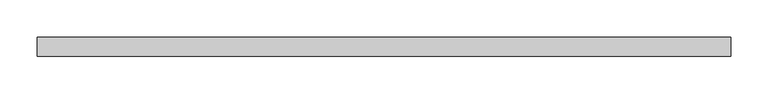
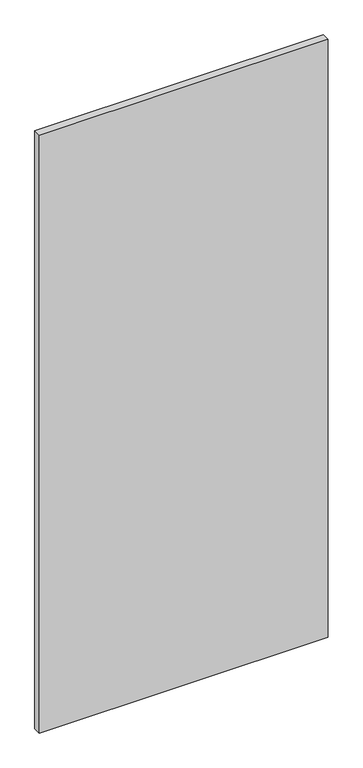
"""IFC4 building model written with IfcOpenShell, lengths in millimetres: plate geometry, Системная панель : С остеклением."""

from ifc_helpers import new_model, si_unit, origin, origin_with_axes, place, context, project, spatial, polyline, outline, extrude, source, transform, mapped, element, save


def plate_2c4796f6(model_context):
    return source(origin(), model_context, "Body", "SweptSolid", [
        extrude(outline(polyline([(462.5, -49.5), (-462.5, -49.5), (-462.5, -24.5), (462.5, -24.5), (462.5, -49.5)])), origin_with_axes(), (0.0, 0.0, 1.0), 2025.0),
    ])


if __name__ == "__main__":
    model = new_model("IFC4")
    model_context = context("Model", 3, world=origin())
    ifc_project = project(units=[si_unit("LENGTHUNIT", "METRE", prefix="MILLI")], contexts=[model_context])
    site = spatial("IfcSite", under=ifc_project)
    building = spatial("IfcBuilding", under=site)
    placement = place(None, origin())
    plate_shape = plate_2c4796f6(model_context)
    element("IfcPlate", 1, ObjectType="Системная панель : С остеклением", at=placement, inside=building, context=model_context, shape_type="MappedRepresentation", body=[
        mapped(plate_shape, transform((0.0, 0.0, 0.0), x_axis=(1.0, 0.0, 0.0), y_axis=(0.0, 1.0, 0.0), z_axis=(0.0, 0.0, 1.0))),
    ])
    save(model, "model.ifc")
